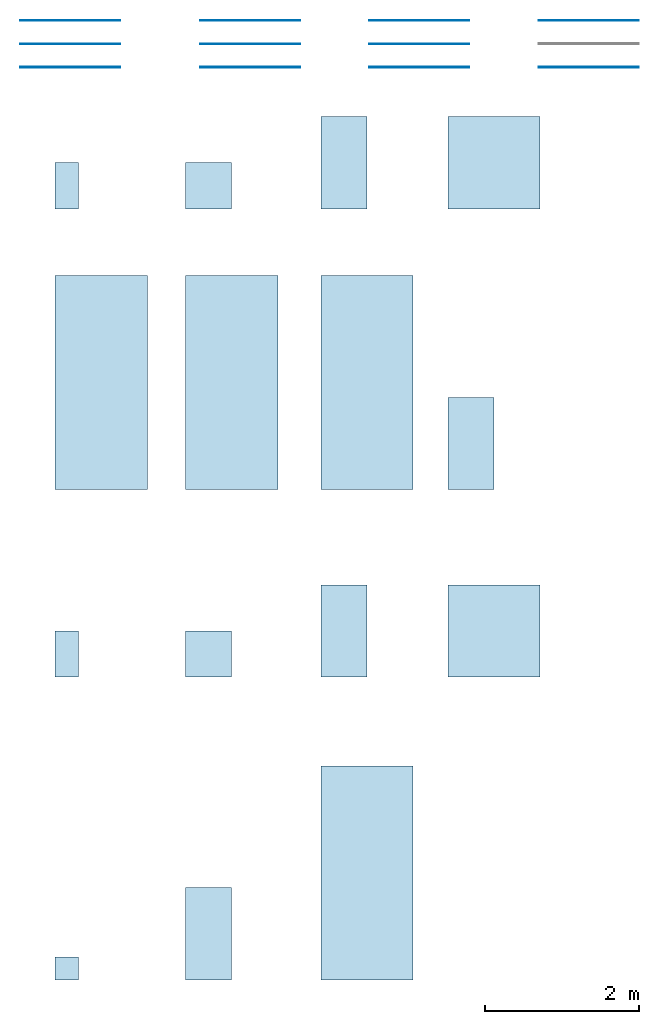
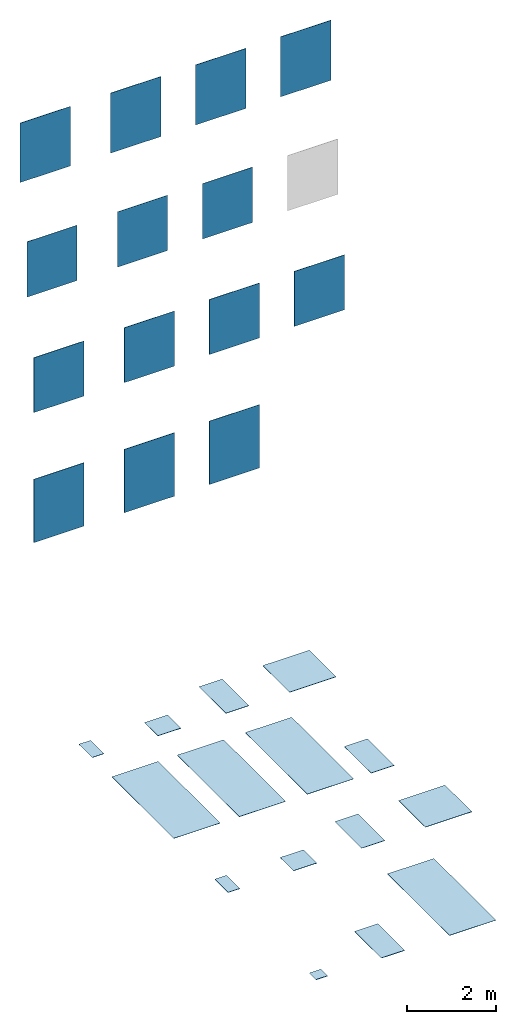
# One storey, part 1 of 2: 15 slabs, 14 walls.
"""IFC2X3 building model written with IfcOpenShell, lengths in millimetres."""

from ifc_helpers import new_model, entity, si_unit, converted_unit, derived_unit, direction, frame, frame_2d, origin, origin_2d_with_axis, place, context, subcontext, project, spatial, rectangle, extrude, material, layer, layer_set, layer_usage, type_object, element, save


model = new_model("IFC2X3")

# Units and contexts
model_context = context("Model", 3, precision=0.01, world=origin(), true_north=direction((6.123031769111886e-17, 1.0)))
body_context = subcontext(model_context, "Body", "Model", "MODEL_VIEW")
ifc_project = project(units=[si_unit("LENGTHUNIT", "METRE", prefix="MILLI"), si_unit("AREAUNIT", "SQUARE_METRE"), si_unit("VOLUMEUNIT", "CUBIC_METRE"), converted_unit("PLANEANGLEUNIT", "DEGREE", entity("IfcPlaneAngleMeasure", 0.017453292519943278), si_unit("PLANEANGLEUNIT", "RADIAN"), dimensions=[0, 0, 0, 0, 0, 0, 0]), si_unit("MASSUNIT", "GRAM", prefix="KILO"), derived_unit("MASSDENSITYUNIT", [(si_unit("MASSUNIT", "GRAM", prefix="KILO"), 1), (si_unit("LENGTHUNIT", "METRE"), -3)]), derived_unit("IONCONCENTRATIONUNIT", [(si_unit("MASSUNIT", "GRAM", prefix="KILO"), 1), (si_unit("LENGTHUNIT", "METRE"), -3)]), derived_unit("MOMENTOFINERTIAUNIT", [(si_unit("LENGTHUNIT", "METRE"), 4)]), si_unit("TIMEUNIT", "SECOND"), si_unit("FREQUENCYUNIT", "HERTZ"), si_unit("THERMODYNAMICTEMPERATUREUNIT", "DEGREE_CELSIUS"), derived_unit("THERMALTRANSMITTANCEUNIT", [(si_unit("MASSUNIT", "GRAM", prefix="KILO"), 1), (si_unit("THERMODYNAMICTEMPERATUREUNIT", "KELVIN"), -1), (si_unit("TIMEUNIT", "SECOND"), -3)]), derived_unit("THERMALCONDUCTANCEUNIT", [(si_unit("MASSUNIT", "GRAM", prefix="KILO"), 1), (si_unit("THERMODYNAMICTEMPERATUREUNIT", "KELVIN"), -1), (si_unit("TIMEUNIT", "SECOND"), -3), (si_unit("LENGTHUNIT", "METRE"), 1)]), derived_unit("VOLUMETRICFLOWRATEUNIT", [(si_unit("LENGTHUNIT", "METRE", prefix="DECI"), 3), (si_unit("TIMEUNIT", "SECOND"), -1)]), derived_unit("MASSFLOWRATEUNIT", [(si_unit("MASSUNIT", "GRAM", prefix="KILO"), 1), (si_unit("TIMEUNIT", "SECOND"), -1)]), derived_unit("ROTATIONALFREQUENCYUNIT", [(si_unit("TIMEUNIT", "SECOND"), -1)]), si_unit("ELECTRICCURRENTUNIT", "AMPERE"), si_unit("ELECTRICVOLTAGEUNIT", "VOLT"), si_unit("POWERUNIT", "WATT"), si_unit("FORCEUNIT", "NEWTON", prefix="KILO"), si_unit("ILLUMINANCEUNIT", "LUX"), si_unit("LUMINOUSFLUXUNIT", "LUMEN"), si_unit("LUMINOUSINTENSITYUNIT", "CANDELA"), si_unit("ENERGYUNIT", "JOULE"), derived_unit("USERDEFINED", [(si_unit("MASSUNIT", "GRAM", prefix="KILO"), -1), (si_unit("LENGTHUNIT", "METRE"), -2), (si_unit("TIMEUNIT", "SECOND"), 3), (si_unit("LUMINOUSFLUXUNIT", "LUMEN"), 1)]), derived_unit("USERDEFINED", [(si_unit("MASSUNIT", "GRAM", prefix="KILO"), 1), (si_unit("TIMEUNIT", "SECOND"), -3), (si_unit("LENGTHUNIT", "METRE"), 3), (si_unit("ELECTRICCURRENTUNIT", "AMPERE"), -2)]), derived_unit("SOUNDPOWERUNIT", [(si_unit("MASSUNIT", "GRAM", prefix="KILO"), 1), (si_unit("TIMEUNIT", "SECOND"), -3), (si_unit("LENGTHUNIT", "METRE"), 2)]), derived_unit("SOUNDPRESSUREUNIT", [(si_unit("MASSUNIT", "GRAM", prefix="KILO"), 1), (si_unit("LENGTHUNIT", "METRE"), -1), (si_unit("TIMEUNIT", "SECOND"), -2)]), derived_unit("LINEARVELOCITYUNIT", [(si_unit("LENGTHUNIT", "METRE"), 1), (si_unit("TIMEUNIT", "SECOND"), -1)]), si_unit("PRESSUREUNIT", "PASCAL"), derived_unit("USERDEFINED", [(si_unit("MASSUNIT", "GRAM", prefix="KILO"), 1), (si_unit("LENGTHUNIT", "METRE"), -2), (si_unit("TIMEUNIT", "SECOND"), -2)]), derived_unit("LINEARFORCEUNIT", [(si_unit("MASSUNIT", "GRAM", prefix="KILO"), 1), (si_unit("TIMEUNIT", "SECOND"), -2)]), derived_unit("PLANARFORCEUNIT", [(si_unit("MASSUNIT", "GRAM", prefix="KILO"), 1), (si_unit("LENGTHUNIT", "METRE"), -1), (si_unit("TIMEUNIT", "SECOND"), -2)]), derived_unit("SPECIFICHEATCAPACITYUNIT", [(si_unit("THERMODYNAMICTEMPERATUREUNIT", "KELVIN"), -1), (si_unit("LENGTHUNIT", "METRE"), 2), (si_unit("TIMEUNIT", "SECOND"), -2)]), derived_unit("HEATFLUXDENSITYUNIT", [(si_unit("MASSUNIT", "GRAM", prefix="KILO"), 1), (si_unit("TIMEUNIT", "SECOND"), -3)]), derived_unit("HEATINGVALUEUNIT", [(si_unit("LENGTHUNIT", "METRE"), 2), (si_unit("TIMEUNIT", "SECOND"), -2)]), derived_unit("VAPORPERMEABILITYUNIT", [(si_unit("LENGTHUNIT", "METRE"), -1), (si_unit("TIMEUNIT", "SECOND"), 1)]), derived_unit("DYNAMICVISCOSITYUNIT", [(si_unit("MASSUNIT", "GRAM", prefix="KILO"), 1), (si_unit("TIMEUNIT", "SECOND"), -1), (si_unit("LENGTHUNIT", "METRE"), -1)]), derived_unit("THERMALEXPANSIONCOEFFICIENTUNIT", [(si_unit("THERMODYNAMICTEMPERATUREUNIT", "KELVIN"), -1)]), derived_unit("MODULUSOFELASTICITYUNIT", [(si_unit("MASSUNIT", "GRAM", prefix="KILO"), 1), (si_unit("LENGTHUNIT", "METRE"), -1), (si_unit("TIMEUNIT", "SECOND"), -2)]), derived_unit("ISOTHERMALMOISTURECAPACITYUNIT", [(si_unit("MASSUNIT", "GRAM", prefix="KILO"), -1), (si_unit("LENGTHUNIT", "METRE"), 3)]), derived_unit("MOISTUREDIFFUSIVITYUNIT", [(si_unit("TIMEUNIT", "SECOND"), -1), (si_unit("LENGTHUNIT", "METRE"), 2)]), derived_unit("MASSPERLENGTHUNIT", [(si_unit("MASSUNIT", "GRAM", prefix="KILO"), 1), (si_unit("LENGTHUNIT", "METRE"), -1)]), derived_unit("THERMALRESISTANCEUNIT", [(si_unit("MASSUNIT", "GRAM", prefix="KILO"), -1), (si_unit("TIMEUNIT", "SECOND"), 3), (si_unit("THERMODYNAMICTEMPERATUREUNIT", "KELVIN"), 1)]), derived_unit("ACCELERATIONUNIT", [(si_unit("LENGTHUNIT", "METRE"), 1), (si_unit("TIMEUNIT", "SECOND"), -2)]), derived_unit("ANGULARVELOCITYUNIT", [(si_unit("TIMEUNIT", "SECOND"), -1), (si_unit("PLANEANGLEUNIT", "RADIAN"), 1)]), derived_unit("LINEARSTIFFNESSUNIT", [(si_unit("MASSUNIT", "GRAM", prefix="KILO"), 1), (si_unit("TIMEUNIT", "SECOND"), -2)]), derived_unit("WARPINGCONSTANTUNIT", [(si_unit("LENGTHUNIT", "METRE"), 6)]), derived_unit("LINEARMOMENTUNIT", [(si_unit("MASSUNIT", "GRAM", prefix="KILO"), 1), (si_unit("LENGTHUNIT", "METRE"), 1), (si_unit("TIMEUNIT", "SECOND"), -2)]), derived_unit("TORQUEUNIT", [(si_unit("MASSUNIT", "GRAM", prefix="KILO"), 1), (si_unit("LENGTHUNIT", "METRE"), 2), (si_unit("TIMEUNIT", "SECOND"), -2)])], contexts=[model_context])

# Site, building, storey
site_placement = place(None, origin())
site = spatial("IfcSite", under=ifc_project, at=site_placement, Name="Default", CompositionType="ELEMENT")
building_placement = place(site_placement, origin())
building = spatial("IfcBuilding", under=site, at=building_placement, CompositionType="ELEMENT")
storey_placement = place(building_placement, origin())
storey = spatial("IfcBuildingStorey", under=building, at=storey_placement, Name="Level 0", CompositionType="ELEMENT", Elevation=0.0)

# Slabs
ifc_material_1 = material(Name="Prestigio-Calacatta-Oro-Lucido-60x120 RC42")
ifc_layer_1 = layer(ifc_material_1, 9.0)
ifc_material_2 = material(Name="<Unnamed>")
ifc_layer_2 = layer(ifc_material_2, 1.0)
ifc_layer_set_1 = layer_set([ifc_layer_1, ifc_layer_2], Name="Floor:Floor_Tiles_Refin-Prestigio-Calacatta-Oro-Lucido-60x120 RC42")
ifc_layer_usage_1 = layer_usage(ifc_layer_set_1, "AXIS3", "POSITIVE", 0.0)
slab_type_1 = type_object("IfcSlabType", Name="Floor:Floor_Tiles_Refin-Prestigio-Calacatta-Oro-Lucido-60x120 RC42", PredefinedType="FLOOR", material=ifc_layer_set_1)
slab_1_placement = place(storey_placement, origin())
element("IfcSlab", 1, at=slab_1_placement, inside=storey, type_object=slab_type_1, material=ifc_layer_usage_1, Name="Floor:Floor_Tiles_Refin-Prestigio-Calacatta-Oro-Lucido-60x120 RC42", ObjectType="Floor:Floor_Tiles_Refin-Prestigio-Calacatta-Oro-Lucido-60x120 RC42", PredefinedType="FLOOR", context=body_context, shape_type="SweptSolid", body=[
    extrude(rectangle(XDim=1200.0, YDim=600.0, at=frame_2d((0.0, 1.0800249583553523e-12), x_axis=(1.0, 0.0))), frame((10127.186141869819, 6289.462374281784, 0.0), z_axis=(0.0, 0.0, -1.0), x_axis=(0.0, 1.0, 0.0)), (0.0, 0.0, 1.0), 10.0),
])
ifc_material_3 = material(Name="Prestigio-Calacatta-Oro-Lucido-30x60 RC57")
ifc_layer_3 = layer(ifc_material_3, 9.0)
ifc_layer_4 = layer(ifc_material_2, 1.0)
ifc_layer_set_2 = layer_set([ifc_layer_3, ifc_layer_4], Name="Floor:Floor_Tiles_Refin-Prestigio-Calacatta-Oro-Lucido-30x60 RC57")
ifc_layer_usage_2 = layer_usage(ifc_layer_set_2, "AXIS3", "POSITIVE", 0.0)
slab_type_2 = type_object("IfcSlabType", Name="Floor:Floor_Tiles_Refin-Prestigio-Calacatta-Oro-Lucido-30x60 RC57", PredefinedType="FLOOR", material=ifc_layer_set_2)
slab_2_placement = place(storey_placement, origin())
element("IfcSlab", 2, at=slab_2_placement, inside=storey, type_object=slab_type_2, material=ifc_layer_usage_2, Name="Floor:Floor_Tiles_Refin-Prestigio-Calacatta-Oro-Lucido-30x60 RC57", ObjectType="Floor:Floor_Tiles_Refin-Prestigio-Calacatta-Oro-Lucido-30x60 RC57", PredefinedType="FLOOR", context=body_context, shape_type="SweptSolid", body=[
    extrude(rectangle(XDim=600.0, YDim=300.0, at=frame_2d((0.0, -5.400124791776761e-13), x_axis=(1.0, 0.0))), frame((6524.375206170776, 5989.462374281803, 0.0), z_axis=(0.0, 0.0, -1.0), x_axis=(0.0, 1.0, 0.0)), (0.0, 0.0, 1.0), 10.0),
])
ifc_material_4 = material(Name="Prestigio-Calacatta-Oro-Lucido-60x60 RA49")
ifc_layer_5 = layer(ifc_material_4, 9.0)
ifc_layer_6 = layer(ifc_material_2, 1.0)
ifc_layer_set_3 = layer_set([ifc_layer_5, ifc_layer_6], Name="Floor:Floor_Tiles_Refin-Prestigio-Calacatta-Oro-Lucido-60x60 RA49")
ifc_layer_usage_3 = layer_usage(ifc_layer_set_3, "AXIS3", "POSITIVE", 0.0)
slab_type_3 = type_object("IfcSlabType", Name="Floor:Floor_Tiles_Refin-Prestigio-Calacatta-Oro-Lucido-60x60 RA49", PredefinedType="FLOOR", material=ifc_layer_set_3)
slab_3_placement = place(storey_placement, origin())
element("IfcSlab", 3, at=slab_3_placement, inside=storey, type_object=slab_type_3, material=ifc_layer_usage_3, Name="Floor:Floor_Tiles_Refin-Prestigio-Calacatta-Oro-Lucido-60x60 RA49", ObjectType="Floor:Floor_Tiles_Refin-Prestigio-Calacatta-Oro-Lucido-60x60 RA49", PredefinedType="FLOOR", context=body_context, shape_type="SweptSolid", body=[
    extrude(rectangle(XDim=600.0, YDim=600.0, at=origin_2d_with_axis()), frame((8367.39240545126, 5988.4192063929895, 0.0), z_axis=(0.0, 0.0, -1.0), x_axis=(0.0, 1.0, 0.0)), (0.0, 0.0, 1.0), 10.0),
])
ifc_material_5 = material(Name="Prestigio-Calacatta-Oro-Lucido-120x120 OY47")
ifc_layer_7 = layer(ifc_material_5, 9.0)
ifc_layer_8 = layer(ifc_material_2, 1.0)
ifc_layer_set_4 = layer_set([ifc_layer_7, ifc_layer_8], Name="Floor:Floor_Tiles_Refin-Prestigio-Calacatta-Oro-Lucido-120x120 OY47")
ifc_layer_usage_4 = layer_usage(ifc_layer_set_4, "AXIS3", "POSITIVE", 0.0)
slab_type_4 = type_object("IfcSlabType", Name="Floor:Floor_Tiles_Refin-Prestigio-Calacatta-Oro-Lucido-120x120 OY47", PredefinedType="FLOOR", material=ifc_layer_set_4)
slab_4_placement = place(storey_placement, origin())
element("IfcSlab", 4, at=slab_4_placement, inside=storey, type_object=slab_type_4, material=ifc_layer_usage_4, Name="Floor:Floor_Tiles_Refin-Prestigio-Calacatta-Oro-Lucido-120x120 OY47", ObjectType="Floor:Floor_Tiles_Refin-Prestigio-Calacatta-Oro-Lucido-120x120 OY47", PredefinedType="FLOOR", context=body_context, shape_type="SweptSolid", body=[
    extrude(rectangle(XDim=1200.0, YDim=1200.0, at=origin_2d_with_axis()), frame((12077.186141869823, 6289.462374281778, 0.0), z_axis=(0.0, 0.0, -1.0), x_axis=(0.0, 1.0, 0.0)), (0.0, 0.0, 1.0), 10.0),
])
ifc_material_6 = material(Name="Prestigio-Calacatta-Oro-Onde-60x120 RB12")
ifc_layer_9 = layer(ifc_material_6, 9.0)
ifc_layer_10 = layer(ifc_material_2, 1.0)
ifc_layer_set_5 = layer_set([ifc_layer_9, ifc_layer_10], Name="Floor:Floor_Tiles_Refin-Prestigio-Calacatta-Oro-Onde-60x120 RB12")
ifc_layer_usage_5 = layer_usage(ifc_layer_set_5, "AXIS3", "POSITIVE", 0.0)
slab_type_5 = type_object("IfcSlabType", Name="Floor:Floor_Tiles_Refin-Prestigio-Calacatta-Oro-Onde-60x120 RB12", PredefinedType="FLOOR", material=ifc_layer_set_5)
slab_5_placement = place(storey_placement, origin())
element("IfcSlab", 5, at=slab_5_placement, inside=storey, type_object=slab_type_5, material=ifc_layer_usage_5, Name="Floor:Floor_Tiles_Refin-Prestigio-Calacatta-Oro-Onde-60x120 RB12", ObjectType="Floor:Floor_Tiles_Refin-Prestigio-Calacatta-Oro-Onde-60x120 RB12", PredefinedType="FLOOR", context=body_context, shape_type="SweptSolid", body=[
    extrude(rectangle(XDim=1200.0, YDim=600.0, at=origin_2d_with_axis()), frame((8365.61813234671, -3732.5889272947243, 0.0), z_axis=(0.0, 0.0, -1.0), x_axis=(0.0, 1.0, 0.0)), (0.0, 0.0, 1.0), 10.0),
])
ifc_material_7 = material(Name="Prestigio-Calacatta-Oro-Lucido-120x278 RA36")
ifc_layer_11 = layer(ifc_material_7, 6.0)
ifc_layer_12 = layer(ifc_material_2, 1.0)
ifc_layer_set_6 = layer_set([ifc_layer_11, ifc_layer_12], Name="Floor:Floor_Tiles_Refin-Prestigio-Calacatta-Oro-Lucido-120x278 RA36")
ifc_layer_usage_6 = layer_usage(ifc_layer_set_6, "AXIS3", "POSITIVE", 0.0)
slab_type_6 = type_object("IfcSlabType", Name="Floor:Floor_Tiles_Refin-Prestigio-Calacatta-Oro-Lucido-120x278 RA36", PredefinedType="FLOOR", material=ifc_layer_set_6)
slab_6_placement = place(storey_placement, origin())
element("IfcSlab", 6, at=slab_6_placement, inside=storey, type_object=slab_type_6, material=ifc_layer_usage_6, Name="Floor:Floor_Tiles_Refin-Prestigio-Calacatta-Oro-Lucido-120x278 RA36", ObjectType="Floor:Floor_Tiles_Refin-Prestigio-Calacatta-Oro-Lucido-120x278 RA36", PredefinedType="FLOOR", context=body_context, shape_type="SweptSolid", body=[
    extrude(rectangle(XDim=2780.0, YDim=1200.0, at=frame_2d((-3.410605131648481e-13, 0.0), x_axis=(1.0, 0.0))), frame((6974.375206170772, 3429.4623742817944, 0.0), z_axis=(0.0, 0.0, -1.0), x_axis=(0.0, 1.0, 0.0)), (0.0, 0.0, 1.0), 7.0),
])
ifc_material_8 = material(Name="Prestigio-Calacatta-Oro-Lucido-Craquele-120x278 RB39")
ifc_layer_13 = layer(ifc_material_8, 6.0)
ifc_layer_14 = layer(ifc_material_2, 1.0)
ifc_layer_set_7 = layer_set([ifc_layer_13, ifc_layer_14], Name="Floor:Floor_Tiles_Refin-Prestigio-Calacatta-Oro-Lucido-Craquele-120x278 RB39")
ifc_layer_usage_7 = layer_usage(ifc_layer_set_7, "AXIS3", "POSITIVE", 0.0)
slab_type_7 = type_object("IfcSlabType", Name="Floor:Floor_Tiles_Refin-Prestigio-Calacatta-Oro-Lucido-Craquele-120x278 RB39", PredefinedType="FLOOR", material=ifc_layer_set_7)
slab_7_placement = place(storey_placement, origin())
element("IfcSlab", 7, at=slab_7_placement, inside=storey, type_object=slab_type_7, material=ifc_layer_usage_7, Name="Floor:Floor_Tiles_Refin-Prestigio-Calacatta-Oro-Lucido-Craquele-120x278 RB39", ObjectType="Floor:Floor_Tiles_Refin-Prestigio-Calacatta-Oro-Lucido-Craquele-120x278 RB39", PredefinedType="FLOOR", context=body_context, shape_type="SweptSolid", body=[
    extrude(rectangle(XDim=2780.0, YDim=1200.0, at=frame_2d((-3.410605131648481e-13, 0.0), x_axis=(1.0, 0.0))), frame((8667.392405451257, 3429.462374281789, 0.0), z_axis=(0.0, 0.0, -1.0), x_axis=(0.0, 1.0, 0.0)), (0.0, 0.0, 1.0), 7.0),
])
ifc_material_9 = material(Name="Prestigio-Calacatta-Oro-Lucido-Mesh-120x278 RB41")
ifc_layer_15 = layer(ifc_material_9, 6.0)
ifc_layer_16 = layer(ifc_material_2, 1.0)
ifc_layer_set_8 = layer_set([ifc_layer_15, ifc_layer_16], Name="Floor:Floor_Tiles_Refin-Prestigio-Calacatta-Oro-Lucido-Mesh-120x278 RB41")
ifc_layer_usage_8 = layer_usage(ifc_layer_set_8, "AXIS3", "POSITIVE", 0.0)
slab_type_8 = type_object("IfcSlabType", Name="Floor:Floor_Tiles_Refin-Prestigio-Calacatta-Oro-Lucido-Mesh-120x278 RB41", PredefinedType="FLOOR", material=ifc_layer_set_8)
slab_8_placement = place(storey_placement, origin())
element("IfcSlab", 8, at=slab_8_placement, inside=storey, type_object=slab_type_8, material=ifc_layer_usage_8, Name="Floor:Floor_Tiles_Refin-Prestigio-Calacatta-Oro-Lucido-Mesh-120x278 RB41", ObjectType="Floor:Floor_Tiles_Refin-Prestigio-Calacatta-Oro-Lucido-Mesh-120x278 RB41", PredefinedType="FLOOR", context=body_context, shape_type="SweptSolid", body=[
    extrude(rectangle(XDim=2780.0, YDim=1200.0, at=frame_2d((3.410605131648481e-13, 0.0), x_axis=(1.0, 0.0))), frame((10427.186141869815, 3429.4623742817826, 0.0), z_axis=(0.0, 0.0, -1.0), x_axis=(0.0, 1.0, 0.0)), (0.0, 0.0, 1.0), 7.0),
])
ifc_material_10 = material(Name="Prestigio-Calacatta-Oro-Matt-60x120 RC52")
ifc_layer_17 = layer(ifc_material_10, 9.0)
ifc_layer_18 = layer(ifc_material_2, 1.0)
ifc_layer_set_9 = layer_set([ifc_layer_17, ifc_layer_18], Name="Floor:Floor_Tiles_Refin-Prestigio-Calacatta-Oro-Matt-60x120 RC52")
ifc_layer_usage_9 = layer_usage(ifc_layer_set_9, "AXIS3", "POSITIVE", 0.0)
slab_type_9 = type_object("IfcSlabType", Name="Floor:Floor_Tiles_Refin-Prestigio-Calacatta-Oro-Matt-60x120 RC52", PredefinedType="FLOOR", material=ifc_layer_set_9)
slab_9_placement = place(storey_placement, origin())
element("IfcSlab", 9, at=slab_9_placement, inside=storey, type_object=slab_type_9, material=ifc_layer_usage_9, Name="Floor:Floor_Tiles_Refin-Prestigio-Calacatta-Oro-Matt-60x120 RC52", ObjectType="Floor:Floor_Tiles_Refin-Prestigio-Calacatta-Oro-Matt-60x120 RC52", PredefinedType="FLOOR", context=body_context, shape_type="SweptSolid", body=[
    extrude(rectangle(XDim=1200.0, YDim=600.0, at=frame_2d((0.0, 1.0800249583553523e-12), x_axis=(1.0, 0.0))), frame((11777.186141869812, 2639.4623742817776, 0.0), z_axis=(0.0, 0.0, -1.0), x_axis=(0.0, 1.0, 0.0)), (0.0, 0.0, 1.0), 10.0),
])
ifc_material_11 = material(Name="Prestigio-Calacatta-Oro-Soft-30x60 RC62")
ifc_layer_19 = layer(ifc_material_11, 9.0)
ifc_layer_20 = layer(ifc_material_2, 1.0)
ifc_layer_set_10 = layer_set([ifc_layer_19, ifc_layer_20], Name="Floor:Floor_Tiles_Refin-Prestigio-Calacatta-Oro-Soft-30x60 RC62")
ifc_layer_usage_10 = layer_usage(ifc_layer_set_10, "AXIS3", "POSITIVE", 0.0)
slab_type_10 = type_object("IfcSlabType", Name="Floor:Floor_Tiles_Refin-Prestigio-Calacatta-Oro-Soft-30x60 RC62", PredefinedType="FLOOR", material=ifc_layer_set_10)
slab_10_placement = place(storey_placement, origin())
element("IfcSlab", 10, at=slab_10_placement, inside=storey, type_object=slab_type_10, material=ifc_layer_usage_10, Name="Floor:Floor_Tiles_Refin-Prestigio-Calacatta-Oro-Soft-30x60 RC62", ObjectType="Floor:Floor_Tiles_Refin-Prestigio-Calacatta-Oro-Soft-30x60 RC62", PredefinedType="FLOOR", context=body_context, shape_type="SweptSolid", body=[
    extrude(rectangle(XDim=600.0, YDim=300.0, at=frame_2d((0.0, -5.400124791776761e-13), x_axis=(1.0, 0.0))), frame((6524.375206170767, -96.56327650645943, 0.0), z_axis=(0.0, 0.0, -1.0), x_axis=(0.0, 1.0, 0.0)), (0.0, 0.0, 1.0), 10.0),
])
ifc_material_12 = material(Name="Prestigio-Calacatta-Oro-Soft-60x120 RC47")
ifc_layer_21 = layer(ifc_material_12, 6.0)
ifc_layer_22 = layer(ifc_material_2, 1.0)
ifc_layer_set_11 = layer_set([ifc_layer_21, ifc_layer_22], Name="Floor:Floor_Tiles_Refin-Prestigio-Calacatta-Oro-Soft-60x120 RC47")
ifc_layer_usage_11 = layer_usage(ifc_layer_set_11, "AXIS3", "POSITIVE", 0.0)
slab_type_11 = type_object("IfcSlabType", Name="Floor:Floor_Tiles_Refin-Prestigio-Calacatta-Oro-Soft-60x120 RC47", PredefinedType="FLOOR", material=ifc_layer_set_11)
slab_11_placement = place(storey_placement, origin())
element("IfcSlab", 11, at=slab_11_placement, inside=storey, type_object=slab_type_11, material=ifc_layer_usage_11, Name="Floor:Floor_Tiles_Refin-Prestigio-Calacatta-Oro-Soft-60x120 RC47", ObjectType="Floor:Floor_Tiles_Refin-Prestigio-Calacatta-Oro-Soft-60x120 RC47", PredefinedType="FLOOR", context=body_context, shape_type="SweptSolid", body=[
    extrude(rectangle(XDim=1200.0, YDim=600.0, at=frame_2d((0.0, 1.0800249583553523e-12), x_axis=(1.0, 0.0))), frame((10127.18614186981, 203.43672349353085, 0.0), z_axis=(0.0, 0.0, -1.0), x_axis=(0.0, 1.0, 0.0)), (0.0, 0.0, 1.0), 7.0),
])
ifc_material_13 = material(Name="Prestigio-Calacatta-Oro-Soft-120x120 OY58")
ifc_layer_23 = layer(ifc_material_13, 9.0)
ifc_layer_24 = layer(ifc_material_2, 1.0)
ifc_layer_set_12 = layer_set([ifc_layer_23, ifc_layer_24], Name="Floor:Floor_Tiles_Refin-Prestigio-Calacatta-Oro-Soft-120x120 OY58")
ifc_layer_usage_12 = layer_usage(ifc_layer_set_12, "AXIS3", "POSITIVE", 0.0)
slab_type_12 = type_object("IfcSlabType", Name="Floor:Floor_Tiles_Refin-Prestigio-Calacatta-Oro-Soft-120x120 OY58", PredefinedType="FLOOR", material=ifc_layer_set_12)
slab_12_placement = place(storey_placement, origin())
element("IfcSlab", 12, at=slab_12_placement, inside=storey, type_object=slab_type_12, material=ifc_layer_usage_12, Name="Floor:Floor_Tiles_Refin-Prestigio-Calacatta-Oro-Soft-120x120 OY58", ObjectType="Floor:Floor_Tiles_Refin-Prestigio-Calacatta-Oro-Soft-120x120 OY58", PredefinedType="FLOOR", context=body_context, shape_type="SweptSolid", body=[
    extrude(rectangle(XDim=1200.0, YDim=1200.0, at=origin_2d_with_axis()), frame((12077.186141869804, 203.43672349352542, 0.0), z_axis=(0.0, 0.0, -1.0), x_axis=(0.0, 1.0, 0.0)), (0.0, 0.0, 1.0), 10.0),
])
ifc_layer_25 = layer(ifc_material_4, 9.0)
ifc_layer_26 = layer(ifc_material_2, 1.0)
ifc_layer_set_13 = layer_set([ifc_layer_25, ifc_layer_26], Name="Floor:Floor_Tiles_Refin-Prestigio-Calacatta-Oro-Soft-60x60 RB85")
ifc_layer_usage_13 = layer_usage(ifc_layer_set_13, "AXIS3", "POSITIVE", 0.0)
slab_type_13 = type_object("IfcSlabType", Name="Floor:Floor_Tiles_Refin-Prestigio-Calacatta-Oro-Soft-60x60 RB85", PredefinedType="FLOOR", material=ifc_layer_set_13)
slab_13_placement = place(storey_placement, origin())
element("IfcSlab", 13, at=slab_13_placement, inside=storey, type_object=slab_type_13, material=ifc_layer_usage_13, Name="Floor:Floor_Tiles_Refin-Prestigio-Calacatta-Oro-Soft-60x60 RB85", ObjectType="Floor:Floor_Tiles_Refin-Prestigio-Calacatta-Oro-Soft-60x60 RB85", PredefinedType="FLOOR", context=body_context, shape_type="SweptSolid", body=[
    extrude(rectangle(XDim=600.0, YDim=600.0, at=origin_2d_with_axis()), frame((8367.392405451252, -96.56327650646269, 0.0), z_axis=(0.0, 0.0, -1.0), x_axis=(0.0, 1.0, 0.0)), (0.0, 0.0, 1.0), 10.0),
])
ifc_material_14 = material(Name="Prestigio-Calacatta-Oro-Mosaico-30x30 RB56")
ifc_layer_27 = layer(ifc_material_14, 9.0)
ifc_layer_28 = layer(ifc_material_2, 1.0)
ifc_layer_set_14 = layer_set([ifc_layer_27, ifc_layer_28], Name="Floor:Floor_Tiles_Refin-Prestigio-Calacatta-Oro-Mosaico-30x30 RB56")
ifc_layer_usage_14 = layer_usage(ifc_layer_set_14, "AXIS3", "POSITIVE", 0.0)
slab_type_14 = type_object("IfcSlabType", Name="Floor:Floor_Tiles_Refin-Prestigio-Calacatta-Oro-Mosaico-30x30 RB56", PredefinedType="FLOOR", material=ifc_layer_set_14)
slab_14_placement = place(storey_placement, origin())
element("IfcSlab", 14, at=slab_14_placement, inside=storey, type_object=slab_type_14, material=ifc_layer_usage_14, Name="Floor:Floor_Tiles_Refin-Prestigio-Calacatta-Oro-Mosaico-30x30 RB56", ObjectType="Floor:Floor_Tiles_Refin-Prestigio-Calacatta-Oro-Mosaico-30x30 RB56", PredefinedType="FLOOR", context=body_context, shape_type="SweptSolid", body=[
    extrude(rectangle(XDim=300.0, YDim=300.0, at=frame_2d((0.0, 5.400124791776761e-13), x_axis=(1.0, 0.0))), frame((6524.37520617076, -4182.5889272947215, 0.0), z_axis=(0.0, 0.0, -1.0), x_axis=(0.0, 1.0, 0.0)), (0.0, 0.0, 1.0), 10.0),
])
ifc_material_15 = material(Name="Prestigio-Calacatta-Oro-120x278 RA40")
ifc_layer_29 = layer(ifc_material_15, 6.0)
ifc_layer_30 = layer(ifc_material_2, 1.0)
ifc_layer_set_15 = layer_set([ifc_layer_29, ifc_layer_30], Name="Floor:Floor_Tiles_Refin-Prestigio-Calacatta-Oro-120x278 RA40")
ifc_layer_usage_15 = layer_usage(ifc_layer_set_15, "AXIS3", "POSITIVE", 0.0)
slab_type_15 = type_object("IfcSlabType", Name="Floor:Floor_Tiles_Refin-Prestigio-Calacatta-Oro-120x278 RA40", PredefinedType="FLOOR", material=ifc_layer_set_15)
slab_15_placement = place(storey_placement, origin())
element("IfcSlab", 15, at=slab_15_placement, inside=storey, type_object=slab_type_15, material=ifc_layer_usage_15, Name="Floor:Floor_Tiles_Refin-Prestigio-Calacatta-Oro-120x278 RA40", ObjectType="Floor:Floor_Tiles_Refin-Prestigio-Calacatta-Oro-120x278 RA40", PredefinedType="FLOOR", context=body_context, shape_type="SweptSolid", body=[
    extrude(rectangle(XDim=2780.0, YDim=1200.0, at=frame_2d((-3.410605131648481e-13, 0.0), x_axis=(1.0, 0.0))), frame((10427.186141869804, -2942.5889272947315, 0.0), z_axis=(0.0, 0.0, -1.0), x_axis=(0.0, 1.0, 0.0)), (0.0, 0.0, 1.0), 7.0),
])

# Walls
ifc_layer_31 = layer(ifc_material_2, 1.0)
ifc_layer_32 = layer(ifc_material_4, 9.0)
ifc_layer_set_16 = layer_set([ifc_layer_31, ifc_layer_32], Name="Basic Wall:Wall_Tiles_Refin-Prestigio-Calacatta-Oro-Lucido-60x60 RA49")
ifc_layer_usage_16 = layer_usage(ifc_layer_set_16, "AXIS2", "NEGATIVE", 5.000000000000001)
wall_type_1 = type_object("IfcWallType", Name="Basic Wall:Wall_Tiles_Refin-Prestigio-Calacatta-Oro-Lucido-60x60 RA49", PredefinedType="STANDARD", material=ifc_layer_set_16)
wall_1_placement = place(storey_placement, frame((8257.37520617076, 8137.383863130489, 14387.677044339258)))
element("IfcWallStandardCase", 16, at=wall_1_placement, inside=storey, type_object=wall_type_1, material=ifc_layer_usage_16, Name="Basic Wall:Wall_Tiles_Refin-Prestigio-Calacatta-Oro-Lucido-60x60 RA49", ObjectType="Basic Wall:Wall_Tiles_Refin-Prestigio-Calacatta-Oro-Lucido-60x60 RA49", context=body_context, shape_type="SweptSolid", body=[
    extrude(rectangle(XDim=1300.0, YDim=9.999999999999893, at=frame_2d((650.0, 7.638334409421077e-14), x_axis=(-1.0, 0.0))), origin(), (0.0, 0.0, 1.0), 1641.7417352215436),
])
ifc_layer_33 = layer(ifc_material_2, 1.0)
ifc_layer_34 = layer(ifc_material_1, 9.0)
ifc_layer_set_17 = layer_set([ifc_layer_33, ifc_layer_34], Name="Basic Wall:Wall_Tiles_Refin-Prestigio-Calacatta-Oro-Lucido-60x120 RC42")
ifc_layer_usage_17 = layer_usage(ifc_layer_set_17, "AXIS2", "NEGATIVE", 5.000000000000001)
wall_type_2 = type_object("IfcWallType", Name="Basic Wall:Wall_Tiles_Refin-Prestigio-Calacatta-Oro-Lucido-60x120 RC42", PredefinedType="STANDARD", material=ifc_layer_set_17)
wall_2_placement = place(storey_placement, frame((10457.375206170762, 8137.383863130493, 14387.677044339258)))
element("IfcWallStandardCase", 17, at=wall_2_placement, inside=storey, type_object=wall_type_2, material=ifc_layer_usage_17, Name="Basic Wall:Wall_Tiles_Refin-Prestigio-Calacatta-Oro-Lucido-60x120 RC42", ObjectType="Basic Wall:Wall_Tiles_Refin-Prestigio-Calacatta-Oro-Lucido-60x120 RC42", context=body_context, shape_type="SweptSolid", body=[
    extrude(rectangle(XDim=1299.999999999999, YDim=9.999999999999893, at=frame_2d((649.9999999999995, 7.638334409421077e-14), x_axis=(-1.0, 0.0))), origin(), (0.0, 0.0, 1.0), 1641.7417352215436),
])
ifc_layer_35 = layer(ifc_material_2, 1.0)
ifc_layer_36 = layer(ifc_material_3, 9.0)
ifc_layer_set_18 = layer_set([ifc_layer_35, ifc_layer_36], Name="Basic Wall:Wall_Tiles_Refin-Prestigio-Calacatta-Oro-Lucido-30x60 RC57")
ifc_layer_usage_18 = layer_usage(ifc_layer_set_18, "AXIS2", "NEGATIVE", 5.000000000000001)
wall_type_3 = type_object("IfcWallType", Name="Basic Wall:Wall_Tiles_Refin-Prestigio-Calacatta-Oro-Lucido-30x60 RC57", PredefinedType="STANDARD", material=ifc_layer_set_18)
wall_3_placement = place(storey_placement, frame((5917.375206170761, 8137.383863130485, 14403.726734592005)))
element("IfcWallStandardCase", 18, at=wall_3_placement, inside=storey, type_object=wall_type_3, material=ifc_layer_usage_18, Name="Basic Wall:Wall_Tiles_Refin-Prestigio-Calacatta-Oro-Lucido-30x60 RC57", ObjectType="Basic Wall:Wall_Tiles_Refin-Prestigio-Calacatta-Oro-Lucido-30x60 RC57", context=body_context, shape_type="SweptSolid", body=[
    extrude(rectangle(XDim=1300.0, YDim=9.999999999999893, at=frame_2d((650.0, 7.638334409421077e-14), x_axis=(-1.0, 0.0))), origin(), (0.0, 0.0, 1.0), 1625.692044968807),
])
ifc_layer_37 = layer(ifc_material_2, 1.0)
ifc_layer_38 = layer(ifc_material_7, 6.0)
ifc_layer_set_19 = layer_set([ifc_layer_37, ifc_layer_38], Name="Basic Wall:Wall_Tiles_Refin-Prestigio-Calacatta-Oro-Lucido-120x278 RA36")
ifc_layer_usage_19 = layer_usage(ifc_layer_set_19, "AXIS2", "NEGATIVE", 3.5000000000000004)
wall_type_4 = type_object("IfcWallType", Name="Basic Wall:Wall_Tiles_Refin-Prestigio-Calacatta-Oro-Lucido-120x278 RA36", PredefinedType="STANDARD", material=ifc_layer_set_19)
wall_4_placement = place(storey_placement, frame((5917.375206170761, 7832.3838631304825, 11452.543626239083)))
element("IfcWallStandardCase", 19, at=wall_4_placement, inside=storey, type_object=wall_type_4, material=ifc_layer_usage_19, Name="Basic Wall:Wall_Tiles_Refin-Prestigio-Calacatta-Oro-Lucido-120x278 RA36", ObjectType="Basic Wall:Wall_Tiles_Refin-Prestigio-Calacatta-Oro-Lucido-120x278 RA36", context=body_context, shape_type="SweptSolid", body=[
    extrude(rectangle(XDim=1300.0, YDim=7.000000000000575, at=frame_2d((650.0, 0.0), x_axis=(-1.0, 0.0))), origin(), (0.0, 0.0, 1.0), 1513.1985565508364),
])
ifc_layer_39 = layer(ifc_material_2, 1.0)
ifc_layer_40 = layer(ifc_material_8, 6.0)
ifc_layer_set_20 = layer_set([ifc_layer_39, ifc_layer_40], Name="Basic Wall:Wall_Tiles_Refin-Prestigio-Calacatta-Oro-Lucido-Craquele-120x278 RB39")
ifc_layer_usage_20 = layer_usage(ifc_layer_set_20, "AXIS2", "NEGATIVE", 3.5000000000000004)
wall_type_5 = type_object("IfcWallType", Name="Basic Wall:Wall_Tiles_Refin-Prestigio-Calacatta-Oro-Lucido-Craquele-120x278 RB39", PredefinedType="STANDARD", material=ifc_layer_set_20)
wall_5_placement = place(storey_placement, frame((8257.37520617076, 7832.383863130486, 11452.543626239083)))
element("IfcWallStandardCase", 20, at=wall_5_placement, inside=storey, type_object=wall_type_5, material=ifc_layer_usage_20, Name="Basic Wall:Wall_Tiles_Refin-Prestigio-Calacatta-Oro-Lucido-Craquele-120x278 RB39", ObjectType="Basic Wall:Wall_Tiles_Refin-Prestigio-Calacatta-Oro-Lucido-Craquele-120x278 RB39", context=body_context, shape_type="SweptSolid", body=[
    extrude(rectangle(XDim=1300.0, YDim=7.000000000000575, at=frame_2d((650.0, 0.0), x_axis=(-1.0, 0.0))), origin(), (0.0, 0.0, 1.0), 1513.1985565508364),
])
ifc_layer_41 = layer(ifc_material_2, 1.0)
ifc_layer_42 = layer(ifc_material_9, 6.0)
ifc_layer_set_21 = layer_set([ifc_layer_41, ifc_layer_42], Name="Basic Wall:Wall_Tiles_Refin-Prestigio-Calacatta-Oro-Lucido-Mesh-120x278 RB41")
ifc_layer_usage_21 = layer_usage(ifc_layer_set_21, "AXIS2", "NEGATIVE", 3.5000000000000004)
wall_type_6 = type_object("IfcWallType", Name="Basic Wall:Wall_Tiles_Refin-Prestigio-Calacatta-Oro-Lucido-Mesh-120x278 RB41", PredefinedType="STANDARD", material=ifc_layer_set_21)
wall_6_placement = place(storey_placement, frame((10457.37520617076, 7832.383863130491, 11452.543626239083)))
element("IfcWallStandardCase", 21, at=wall_6_placement, inside=storey, type_object=wall_type_6, material=ifc_layer_usage_21, Name="Basic Wall:Wall_Tiles_Refin-Prestigio-Calacatta-Oro-Lucido-Mesh-120x278 RB41", ObjectType="Basic Wall:Wall_Tiles_Refin-Prestigio-Calacatta-Oro-Lucido-Mesh-120x278 RB41", context=body_context, shape_type="SweptSolid", body=[
    extrude(rectangle(XDim=1300.0000000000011, YDim=7.000000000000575, at=frame_2d((650.0000000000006, 0.0), x_axis=(-1.0, 0.0))), origin(), (0.0, 0.0, 1.0), 1513.1985565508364),
])
ifc_layer_43 = layer(ifc_material_2, 1.0)
ifc_layer_44 = layer(ifc_material_11, 9.0)
ifc_layer_set_22 = layer_set([ifc_layer_43, ifc_layer_44], Name="Basic Wall:Wall_Tiles_Refin-Prestigio-Calacatta-Oro-Soft-30x60 RC62")
ifc_layer_usage_22 = layer_usage(ifc_layer_set_22, "AXIS2", "NEGATIVE", 5.000000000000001)
wall_type_7 = type_object("IfcWallType", Name="Basic Wall:Wall_Tiles_Refin-Prestigio-Calacatta-Oro-Soft-30x60 RC62", PredefinedType="STANDARD", material=ifc_layer_set_22)
wall_7_placement = place(storey_placement, frame((5917.375206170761, 7527.3838631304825, 8479.102721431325)))
element("IfcWallStandardCase", 22, at=wall_7_placement, inside=storey, type_object=wall_type_7, material=ifc_layer_usage_22, Name="Basic Wall:Wall_Tiles_Refin-Prestigio-Calacatta-Oro-Soft-30x60 RC62", ObjectType="Basic Wall:Wall_Tiles_Refin-Prestigio-Calacatta-Oro-Soft-30x60 RC62", context=body_context, shape_type="SweptSolid", body=[
    extrude(rectangle(XDim=1300.0, YDim=9.999999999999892, at=frame_2d((650.0, 0.0), x_axis=(-1.0, 0.0))), origin(), (0.0, 0.0, 1.0), 1502.5740159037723),
])
ifc_layer_45 = layer(ifc_material_2, 1.0)
ifc_material_16 = material(Name="Prestigio-Calacatta-Oro-Soft-60x60 RB85")
ifc_layer_46 = layer(ifc_material_16, 9.0)
ifc_layer_set_23 = layer_set([ifc_layer_45, ifc_layer_46], Name="Basic Wall:Wall_Tiles_Refin-Prestigio-Calacatta-Oro-Soft-60x60 RB85")
ifc_layer_usage_23 = layer_usage(ifc_layer_set_23, "AXIS2", "NEGATIVE", 5.000000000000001)
wall_type_8 = type_object("IfcWallType", Name="Basic Wall:Wall_Tiles_Refin-Prestigio-Calacatta-Oro-Soft-60x60 RB85", PredefinedType="STANDARD", material=ifc_layer_set_23)
wall_8_placement = place(storey_placement, frame((8257.37520617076, 7527.383863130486, 8479.102721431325)))
element("IfcWallStandardCase", 23, at=wall_8_placement, inside=storey, type_object=wall_type_8, material=ifc_layer_usage_23, Name="Basic Wall:Wall_Tiles_Refin-Prestigio-Calacatta-Oro-Soft-60x60 RB85", ObjectType="Basic Wall:Wall_Tiles_Refin-Prestigio-Calacatta-Oro-Soft-60x60 RB85", context=body_context, shape_type="SweptSolid", body=[
    extrude(rectangle(XDim=1300.0, YDim=9.999999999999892, at=frame_2d((650.0, 0.0), x_axis=(-1.0, 0.0))), origin(), (0.0, 0.0, 1.0), 1502.5740159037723),
])
ifc_layer_47 = layer(ifc_material_2, 1.0)
ifc_layer_48 = layer(ifc_material_12, 9.0)
ifc_layer_set_24 = layer_set([ifc_layer_47, ifc_layer_48], Name="Basic Wall:Wall_Tiles_Refin-Prestigio-Calacatta-Oro-Soft-60x120 RC47")
ifc_layer_usage_24 = layer_usage(ifc_layer_set_24, "AXIS2", "NEGATIVE", 5.000000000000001)
wall_type_9 = type_object("IfcWallType", Name="Basic Wall:Wall_Tiles_Refin-Prestigio-Calacatta-Oro-Soft-60x120 RC47", PredefinedType="STANDARD", material=ifc_layer_set_24)
wall_9_placement = place(storey_placement, frame((10457.37520617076, 7527.383863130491, 8479.102721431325)))
element("IfcWallStandardCase", 24, at=wall_9_placement, inside=storey, type_object=wall_type_9, material=ifc_layer_usage_24, Name="Basic Wall:Wall_Tiles_Refin-Prestigio-Calacatta-Oro-Soft-60x120 RC47", ObjectType="Basic Wall:Wall_Tiles_Refin-Prestigio-Calacatta-Oro-Soft-60x120 RC47", context=body_context, shape_type="SweptSolid", body=[
    extrude(rectangle(XDim=1300.0000000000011, YDim=9.999999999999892, at=frame_2d((650.0000000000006, 0.0), x_axis=(-1.0, 0.0))), origin(), (0.0, 0.0, 1.0), 1502.5740159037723),
])
ifc_layer_49 = layer(ifc_material_2, 1.0)
ifc_layer_50 = layer(ifc_material_5, 9.0)
ifc_layer_set_25 = layer_set([ifc_layer_49, ifc_layer_50], Name="Basic Wall:Wall_Tiles_Refin-Prestigio-Calacatta-Oro-Lucido-120x120 OY47")
ifc_layer_usage_25 = layer_usage(ifc_layer_set_25, "AXIS2", "NEGATIVE", 5.000000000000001)
wall_type_10 = type_object("IfcWallType", Name="Basic Wall:Wall_Tiles_Refin-Prestigio-Calacatta-Oro-Lucido-120x120 OY47", PredefinedType="STANDARD", material=ifc_layer_set_25)
wall_10_placement = place(storey_placement, frame((12657.375206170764, 8137.383863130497, 14387.677044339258)))
element("IfcWallStandardCase", 25, at=wall_10_placement, inside=storey, type_object=wall_type_10, material=ifc_layer_usage_25, Name="Basic Wall:Wall_Tiles_Refin-Prestigio-Calacatta-Oro-Lucido-120x120 OY47", ObjectType="Basic Wall:Wall_Tiles_Refin-Prestigio-Calacatta-Oro-Lucido-120x120 OY47", context=body_context, shape_type="SweptSolid", body=[
    extrude(rectangle(XDim=1299.999999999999, YDim=9.999999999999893, at=frame_2d((649.9999999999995, 7.638334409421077e-14), x_axis=(-1.0, 0.0))), origin(), (0.0, 0.0, 1.0), 1641.7417352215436),
])
ifc_layer_51 = layer(ifc_material_2, 1.0)
ifc_layer_52 = layer(ifc_material_13, 9.0)
ifc_layer_set_26 = layer_set([ifc_layer_51, ifc_layer_52], Name="Basic Wall:Wall_Tiles_Refin-Prestigio-Calacatta-Oro-Soft-120x120 OY58")
ifc_layer_usage_26 = layer_usage(ifc_layer_set_26, "AXIS2", "NEGATIVE", 5.000000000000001)
wall_type_11 = type_object("IfcWallType", Name="Basic Wall:Wall_Tiles_Refin-Prestigio-Calacatta-Oro-Soft-120x120 OY58", PredefinedType="STANDARD", material=ifc_layer_set_26)
wall_11_placement = place(storey_placement, frame((12657.37520617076, 7527.383863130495, 8479.102721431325)))
element("IfcWallStandardCase", 26, at=wall_11_placement, inside=storey, type_object=wall_type_11, material=ifc_layer_usage_26, Name="Basic Wall:Wall_Tiles_Refin-Prestigio-Calacatta-Oro-Soft-120x120 OY58", ObjectType="Basic Wall:Wall_Tiles_Refin-Prestigio-Calacatta-Oro-Soft-120x120 OY58", context=body_context, shape_type="SweptSolid", body=[
    extrude(rectangle(XDim=1299.999999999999, YDim=9.999999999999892, at=frame_2d((649.9999999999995, 0.0), x_axis=(-1.0, 0.0))), origin(), (0.0, 0.0, 1.0), 1502.5740159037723),
])
ifc_layer_53 = layer(ifc_material_2, 1.0)
ifc_layer_54 = layer(ifc_material_6, 9.0)
ifc_layer_set_27 = layer_set([ifc_layer_53, ifc_layer_54], Name="Basic Wall:Wall_Tiles_Refin-Prestigio-Calacatta-Oro-Onde-60x120 RB12")
ifc_layer_usage_27 = layer_usage(ifc_layer_set_27, "AXIS2", "NEGATIVE", 5.000000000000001)
wall_type_12 = type_object("IfcWallType", Name="Basic Wall:Wall_Tiles_Refin-Prestigio-Calacatta-Oro-Onde-60x120 RB12", PredefinedType="STANDARD", material=ifc_layer_set_27)
wall_12_placement = place(storey_placement, frame((8257.37520617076, 7527.3838631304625, 4921.078597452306)))
element("IfcWallStandardCase", 27, at=wall_12_placement, inside=storey, type_object=wall_type_12, material=ifc_layer_usage_27, Name="Basic Wall:Wall_Tiles_Refin-Prestigio-Calacatta-Oro-Onde-60x120 RB12", ObjectType="Basic Wall:Wall_Tiles_Refin-Prestigio-Calacatta-Oro-Onde-60x120 RB12", context=body_context, shape_type="SweptSolid", body=[
    extrude(rectangle(XDim=1300.0, YDim=9.999999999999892, at=frame_2d((650.0, 0.0), x_axis=(-1.0, 0.0))), origin(), (0.0, 0.0, 1.0), 1733.8430465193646),
])
ifc_layer_55 = layer(ifc_material_2, 1.0)
ifc_layer_56 = layer(ifc_material_14, 9.0)
ifc_layer_set_28 = layer_set([ifc_layer_55, ifc_layer_56], Name="Basic Wall:Wall_Tiles_Refin-Prestigio-Calacatta-Oro-Mosaico-30x30 RB56")
ifc_layer_usage_28 = layer_usage(ifc_layer_set_28, "AXIS2", "NEGATIVE", 5.000000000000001)
wall_type_13 = type_object("IfcWallType", Name="Basic Wall:Wall_Tiles_Refin-Prestigio-Calacatta-Oro-Mosaico-30x30 RB56", PredefinedType="STANDARD", material=ifc_layer_set_28)
wall_13_placement = place(storey_placement, frame((5917.375206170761, 7527.383863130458, 4921.078597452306)))
element("IfcWallStandardCase", 28, at=wall_13_placement, inside=storey, type_object=wall_type_13, material=ifc_layer_usage_28, Name="Basic Wall:Wall_Tiles_Refin-Prestigio-Calacatta-Oro-Mosaico-30x30 RB56", ObjectType="Basic Wall:Wall_Tiles_Refin-Prestigio-Calacatta-Oro-Mosaico-30x30 RB56", context=body_context, shape_type="SweptSolid", body=[
    extrude(rectangle(XDim=1300.0, YDim=9.999999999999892, at=frame_2d((650.0, 0.0), x_axis=(-1.0, 0.0))), origin(), (0.0, 0.0, 1.0), 1733.8430465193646),
])
ifc_layer_57 = layer(ifc_material_2, 1.0)
ifc_layer_58 = layer(ifc_material_15, 6.0)
ifc_layer_set_29 = layer_set([ifc_layer_57, ifc_layer_58], Name="Basic Wall:Wall_Tiles_Refin-Prestigio-Calacatta-Oro-Soft-120x278 RA40")
ifc_layer_usage_29 = layer_usage(ifc_layer_set_29, "AXIS2", "NEGATIVE", 3.5000000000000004)
wall_type_14 = type_object("IfcWallType", Name="Basic Wall:Wall_Tiles_Refin-Prestigio-Calacatta-Oro-Soft-120x278 RA40", PredefinedType="STANDARD", material=ifc_layer_set_29)
wall_14_placement = place(storey_placement, frame((10457.37520617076, 7527.383863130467, 4921.078597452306)))
element("IfcWallStandardCase", 29, at=wall_14_placement, inside=storey, type_object=wall_type_14, material=ifc_layer_usage_29, Name="Basic Wall:Wall_Tiles_Refin-Prestigio-Calacatta-Oro-Soft-120x278 RA40", ObjectType="Basic Wall:Wall_Tiles_Refin-Prestigio-Calacatta-Oro-Soft-120x278 RA40", context=body_context, shape_type="SweptSolid", body=[
    extrude(rectangle(XDim=1300.0000000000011, YDim=7.000000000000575, at=frame_2d((650.0000000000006, 0.0), x_axis=(-1.0, 0.0))), origin(), (0.0, 0.0, 1.0), 1733.8430465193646),
])

save(model, "model.ifc")
